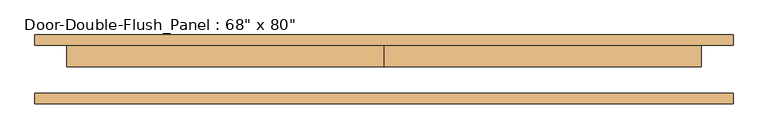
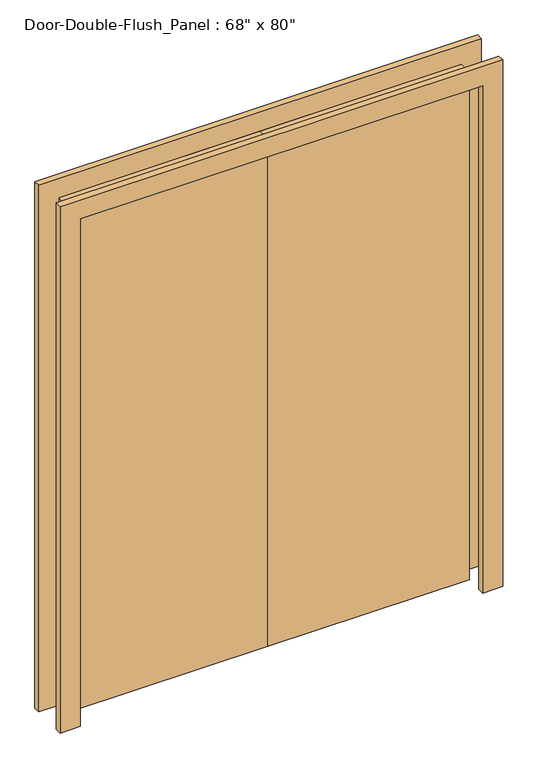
"""IFC4 building model written with IfcOpenShell, lengths in millimetres: door geometry."""

from ifc_helpers import new_model, si_unit, frame, origin, origin_with_axes, place, context, project, spatial, polyline, outline, extrude, source, transform, mapped, element, save


def door_907d17c1(model_context):
    return source(origin(), model_context, "Body", "SweptSolid", [
        extrude(outline(polyline([(2032.0, -762.0), (2032.0, 762.0), (0.0, 762.0), (0.0, 838.2), (2108.2, 838.2), (2108.2, -838.2), (0.0, -838.2), (0.0, -762.0), (2032.0, -762.0)])), frame((0.0, -82.55, 0.0), z_axis=(0.0, 1.0, 0.0), x_axis=(0.0, 0.0, 1.0)), (0.0, 0.0, 1.0), 25.4),
        extrude(outline(polyline([(2032.0, -762.0), (2032.0, 762.0), (0.0, 762.0), (0.0, 838.2), (2108.2, 838.2), (2108.2, -838.2), (0.0, -838.2), (0.0, -762.0), (2032.0, -762.0)])), frame((0.0, 57.15, 0.0), z_axis=(0.0, 1.0, 0.0), x_axis=(0.0, 0.0, 1.0)), (0.0, 0.0, 1.0), 25.4),
        extrude(outline(polyline([(0.0, 57.15), (762.0, 57.15), (762.0, 6.35), (0.0, 6.35), (0.0, 57.15)])), origin_with_axes(), (0.0, 0.0, 1.0), 2032.0),
        extrude(outline(polyline([(-762.0, 57.15), (0.0, 57.15), (0.0, 6.35), (-762.0, 6.35), (-762.0, 57.15)])), origin_with_axes(), (0.0, 0.0, 1.0), 2032.0),
    ])


if __name__ == "__main__":
    model = new_model("IFC4")
    model_context = context("Model", 3, world=origin())
    ifc_project = project(units=[si_unit("LENGTHUNIT", "METRE", prefix="MILLI")], contexts=[model_context])
    site = spatial("IfcSite", under=ifc_project)
    building = spatial("IfcBuilding", under=site)
    placement = place(None, origin())
    door_shape = door_907d17c1(model_context)
    element("IfcDoor", 1, ObjectType="Door-Double-Flush_Panel : 68\" x 80\"", at=placement, inside=building, context=model_context, shape_type="MappedRepresentation", body=[
        mapped(door_shape, transform((0.0, 0.0, 0.0), x_axis=(1.0, 0.0, 0.0), y_axis=(0.0, 1.0, 0.0), z_axis=(0.0, 0.0, 1.0))),
    ])
    save(model, "model.ifc")
